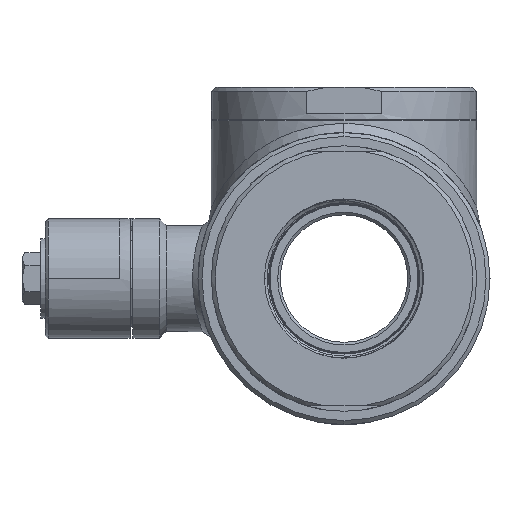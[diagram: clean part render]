
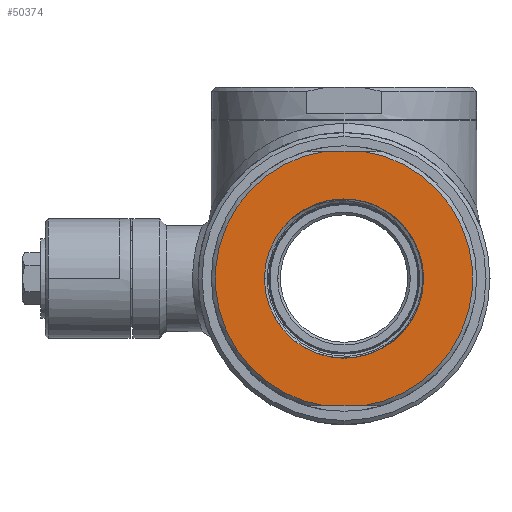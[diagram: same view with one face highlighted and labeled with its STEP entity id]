
A CAD part, left-side view. The second image highlights one B-rep face of the part: STEP entity #50374.
In plain terms, the highlighted planar face has unit normal (-1, 0, 0).
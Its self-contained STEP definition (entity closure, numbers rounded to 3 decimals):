
#10636=DIRECTION('',(0.,1.,0.));
#10637=VECTOR('',#10636,13.892);
#10638=CARTESIAN_POINT('',(-72.,-6.946,
-48.));
#10639=LINE('',#10638,#10637);
#10643=DIRECTION('',(0.,1.,0.));
#10644=VECTOR('',#10643,13.892);
#10645=CARTESIAN_POINT('',(-72.,-6.946,
48.));
#10646=LINE('',#10645,#10644);
#10650=CARTESIAN_POINT('',(-72.,0.,0.));
#10651=DIRECTION('',(1.,0.,0.));
#10652=DIRECTION('',(0.,-1.,0.));
#10653=AXIS2_PLACEMENT_3D('',#10650,#10651,#10652);
#10658=CARTESIAN_POINT('',(-72.,0.,0.));
#10659=DIRECTION('',(1.,0.,0.));
#10660=DIRECTION('',(0.,1.,0.));
#10661=AXIS2_PLACEMENT_3D('',#10658,#10659,#10660);
#10666=CARTESIAN_POINT('',(-72.,0.,0.));
#10667=DIRECTION('',(-1.,0.,0.));
#10668=DIRECTION('',(0.,-0.143,-0.99));
#10669=AXIS2_PLACEMENT_3D('',#10666,#10667,#10668);
#10736=CARTESIAN_POINT('',(-72.,0.,0.));
#10737=DIRECTION('',(-1.,0.,0.));
#10738=DIRECTION('',(0.,0.143,0.99));
#10739=AXIS2_PLACEMENT_3D('',#10736,#10737,#10738);
#10750=CARTESIAN_POINT('',(-72.,-6.946,
-48.));
#10769=CARTESIAN_POINT('',(-72.,6.946,
-48.));
#10787=CARTESIAN_POINT('',(-72.,-6.946,
48.));
#10804=CARTESIAN_POINT('',(-72.,6.946,
48.));
#42087=VERTEX_POINT('',#10750);
#42090=VERTEX_POINT('',#10787);
#42093=VERTEX_POINT('',#10804);
#42096=VERTEX_POINT('',#10769);
#42102=CARTESIAN_POINT('',(-72.,-30.,0.));
#42103=CARTESIAN_POINT('',(-72.,30.,0.));
#42104=VERTEX_POINT('',#42102);
#42105=VERTEX_POINT('',#42103);
#50355=CARTESIAN_POINT('',(-72.,0.,0.));
#50356=DIRECTION('',(-1.,0.,0.));
#50357=DIRECTION('',(0.,1.,0.));
#50358=AXIS2_PLACEMENT_3D('',#50355,#50356,#50357);
#50359=PLANE('',#50358);
#50361=ORIENTED_EDGE('',*,*,#50360,.F.);
#50363=ORIENTED_EDGE('',*,*,#50362,.T.);
#50365=ORIENTED_EDGE('',*,*,#50364,.F.);
#50367=ORIENTED_EDGE('',*,*,#50366,.F.);
#50368=EDGE_LOOP('',(#50361,#50363,#50365,#50367));
#50369=FACE_OUTER_BOUND('',#50368,.F.);
#50370=ORIENTED_EDGE('',*,*,#50349,.F.);
#50371=ORIENTED_EDGE('',*,*,#49698,.F.);
#50372=EDGE_LOOP('',(#50370,#50371));
#50373=FACE_BOUND('',#50372,.F.);
#50374=ADVANCED_FACE('',(#50369,#50373),#50359,.T.);
#10654=CIRCLE('',#10653,30.);
#10662=CIRCLE('',#10661,30.);
#10670=CIRCLE('',#10669,48.5);
#10740=CIRCLE('',#10739,48.5);
#49698=EDGE_CURVE('',#42105,#42104,#10662,.T.);
#50349=EDGE_CURVE('',#42104,#42105,#10654,.T.);
#50360=EDGE_CURVE('',#42087,#42090,#10670,.T.);
#50362=EDGE_CURVE('',#42087,#42096,#10639,.T.);
#50364=EDGE_CURVE('',#42093,#42096,#10740,.T.);
#50366=EDGE_CURVE('',#42090,#42093,#10646,.T.);
